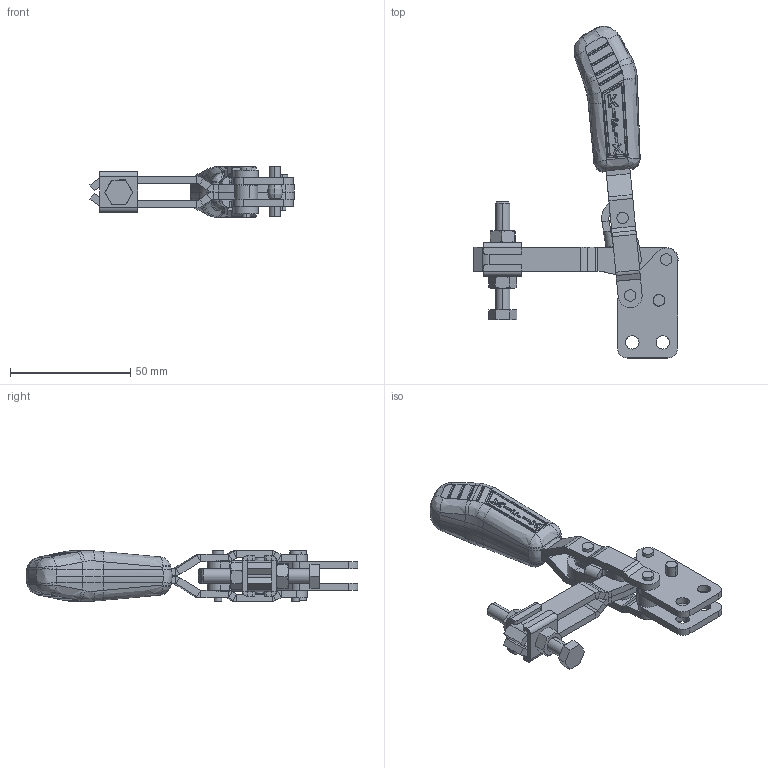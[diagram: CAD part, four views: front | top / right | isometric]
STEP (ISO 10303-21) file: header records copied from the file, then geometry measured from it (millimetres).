
FILE_DESCRIPTION (( 'STEP AP203' ), '1' );
FILE_NAME ('KF-012 RBL.STEP', '2018-03-14T16:50:24', ( 'Ricardo' ), ( '' ), 'SwSTEP 2.0', 'SolidWorks 2018', '' );
FILE_SCHEMA (( 'CONFIG_CONTROL_DESIGN' ));
Length unit declared in the file: millimetre
Products named in the file (14): 06.50012; 05.20007; 04.20004; 02.11009; 11.50001; 01.10120; 12.50002; 03.14017_Direita; 07.60005; 03.14017_Esquerda; 14.10004; 04.10004; KF-012 RBL; 06.50011
Assembly tree (20 placements, depth 2):
  KF-012 RBL
    02.11009  x2
    01.10120  x2
    03.14017_Direita
    03.14017_Esquerda
    04.10004
    06.50011  x2
    06.50012  x2
    05.20007  x2
    04.20004
    11.50001  x2
    12.50002
    07.60005
    14.10004  x2
Bounding box: 84.99 x 138.22 x 21.25 mm (x, y, z)
Volume: 40316.2 mm3; surface area: 28979 mm2
Topology: 20 solids, 20 shells, 1095 faces, 2671 edges, 1635 vertices
Faces by surface type: plane 371, cylinder 353, bspline 273, sphere 50, cone 44, torus 4
Entity records: 36111 total; most frequent: CARTESIAN_POINT 14808, ORIENTED_EDGE 4626, DIRECTION 3368, EDGE_CURVE 2313, VERTEX_POINT 1427, AXIS2_PLACEMENT_3D 1248, EDGE_LOOP 992, FACE_OUTER_BOUND 933
